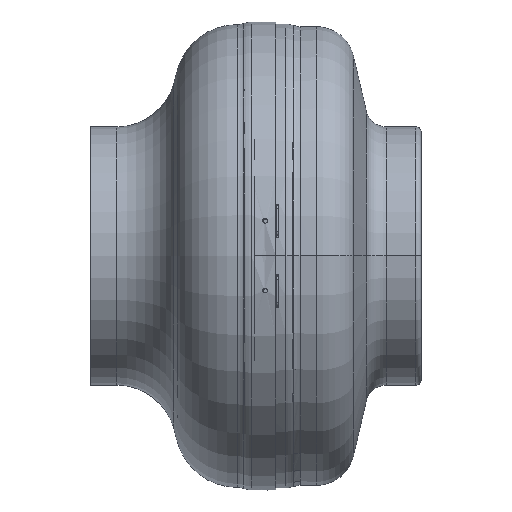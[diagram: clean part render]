
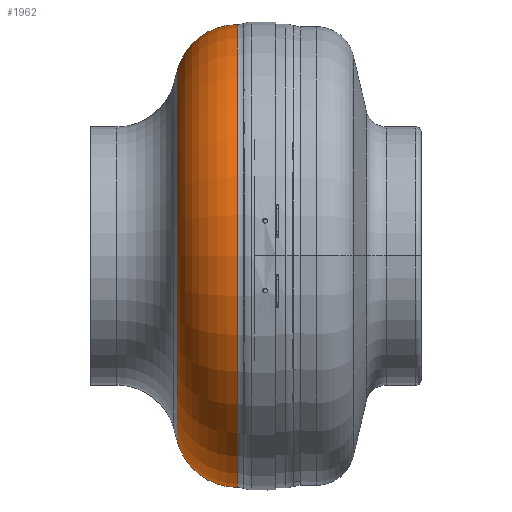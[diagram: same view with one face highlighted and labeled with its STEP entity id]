
A CAD part, top view. The second image highlights one B-rep face of the part: STEP entity #1962.
In plain terms, the highlighted toroidal (fillet/blend) face has major radius 97.5 mm and minor radius 36 mm.
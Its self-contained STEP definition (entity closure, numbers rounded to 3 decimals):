
#11 = TOROIDAL_SURFACE ( 'NONE', #2065, 97.5, 36. ) ;
#54 = VERTEX_POINT ( 'NONE', #7184 ) ;
#138 = ORIENTED_EDGE ( 'NONE', *, *, #6210, .T. ) ;
#324 = EDGE_LOOP ( 'NONE', ( #138, #1736, #6778, #5157 ) ) ;
#412 = DIRECTION ( 'NONE',  ( -1., 0., 0. ) ) ;
#476 = DIRECTION ( 'NONE',  ( 0., -1., 0. ) ) ;
#776 = DIRECTION ( 'NONE',  ( 0., -1., 0. ) ) ;
#1355 = CARTESIAN_POINT ( 'NONE',  ( -10., 0., 0. ) ) ;
#1650 = CARTESIAN_POINT ( 'NONE',  ( -10., -97.5, 0. ) ) ;
#1736 = ORIENTED_EDGE ( 'NONE', *, *, #4755, .T. ) ;
#1737 = CARTESIAN_POINT ( 'NONE',  ( -44.801, 0., 0. ) ) ;
#1857 = VERTEX_POINT ( 'NONE', #5872 ) ;
#1955 = AXIS2_PLACEMENT_3D ( 'NONE', #1650, #8677, #3728 ) ;
#1962 = ADVANCED_FACE ( 'NONE', ( #3987 ), #11, .T. ) ;
#2065 = AXIS2_PLACEMENT_3D ( 'NONE', #1355, #4158, #6792 ) ;
#2595 = EDGE_CURVE ( 'NONE', #4159, #1857, #6606, .T. ) ;
#2650 = AXIS2_PLACEMENT_3D ( 'NONE', #1737, #412, #8134 ) ;
#3088 = AXIS2_PLACEMENT_3D ( 'NONE', #6441, #5517, #776 ) ;
#3326 = DIRECTION ( 'NONE',  ( 0., 0., 1. ) ) ;
#3564 = AXIS2_PLACEMENT_3D ( 'NONE', #6781, #3326, #476 ) ;
#3728 = DIRECTION ( 'NONE',  ( -1., 0., 0. ) ) ;
#3765 = CARTESIAN_POINT ( 'NONE',  ( -10., 133.5, 0. ) ) ;
#3987 = FACE_OUTER_BOUND ( 'NONE', #324, .T. ) ;
#4047 = VERTEX_POINT ( 'NONE', #3765 ) ;
#4158 = DIRECTION ( 'NONE',  ( -1., 0., 0. ) ) ;
#4159 = VERTEX_POINT ( 'NONE', #4534 ) ;
#4534 = CARTESIAN_POINT ( 'NONE',  ( -44.801, -106.716, 0. ) ) ;
#4732 = CIRCLE ( 'NONE', #3564, 36. ) ;
#4755 = EDGE_CURVE ( 'NONE', #4047, #1857, #4732, .T. ) ;
#5150 = EDGE_CURVE ( 'NONE', #54, #4159, #8700, .T. ) ;
#5157 = ORIENTED_EDGE ( 'NONE', *, *, #5150, .F. ) ;
#5517 = DIRECTION ( 'NONE',  ( -1., 0., 0. ) ) ;
#5872 = CARTESIAN_POINT ( 'NONE',  ( -44.801, 106.716, 0. ) ) ;
#6210 = EDGE_CURVE ( 'NONE', #54, #4047, #6461, .T. ) ;
#6441 = CARTESIAN_POINT ( 'NONE',  ( -10., 0., 0. ) ) ;
#6461 = CIRCLE ( 'NONE', #3088, 133.5 ) ;
#6606 = CIRCLE ( 'NONE', #2650, 106.716 ) ;
#6778 = ORIENTED_EDGE ( 'NONE', *, *, #2595, .F. ) ;
#6781 = CARTESIAN_POINT ( 'NONE',  ( -10., 97.5, 0. ) ) ;
#6792 = DIRECTION ( 'NONE',  ( 0., -1., 0. ) ) ;
#7184 = CARTESIAN_POINT ( 'NONE',  ( -10., -133.5, 0. ) ) ;
#8134 = DIRECTION ( 'NONE',  ( 0., -1., 0. ) ) ;
#8677 = DIRECTION ( 'NONE',  ( 0., 0., -1. ) ) ;
#8700 = CIRCLE ( 'NONE', #1955, 36. ) ;
